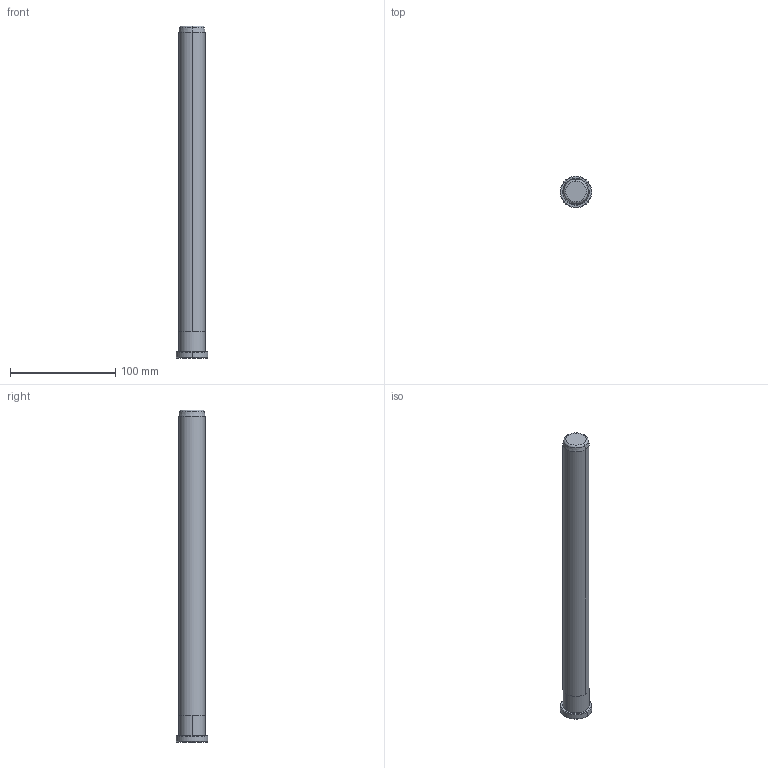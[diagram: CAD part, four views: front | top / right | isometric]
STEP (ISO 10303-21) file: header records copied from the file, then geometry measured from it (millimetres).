
FILE_DESCRIPTION((''),'2;1');
FILE_NAME('B80825315','2018-01-06T',('MANU'),(''),'PRO/ENGINEER BY PARAMETRIC TECHNOLOGY CORPORATION, 2012130','PRO/ENGINEER BY PARAMETRIC TECHNOLOGY CORPORATION, 2012130','');
FILE_SCHEMA(('CONFIG_CONTROL_DESIGN'));
Length unit declared in the file: millimetre
Products named in the file (1): B80825315
Bounding box: 30 x 30 x 315 mm (x, y, z)
Volume: 155631.1 mm3; surface area: 26058.9 mm2
Topology: 1 solids, 1 shells, 18 faces, 34 edges, 20 vertices
Faces by surface type: cone 6, cylinder 6, plane 4, torus 2
Entity records: 494 total; most frequent: DIRECTION 92, CARTESIAN_POINT 72, ORIENTED_EDGE 68, AXIS2_PLACEMENT_3D 40, EDGE_CURVE 34, CIRCLE 22, VERTEX_POINT 20, EDGE_LOOP 20
